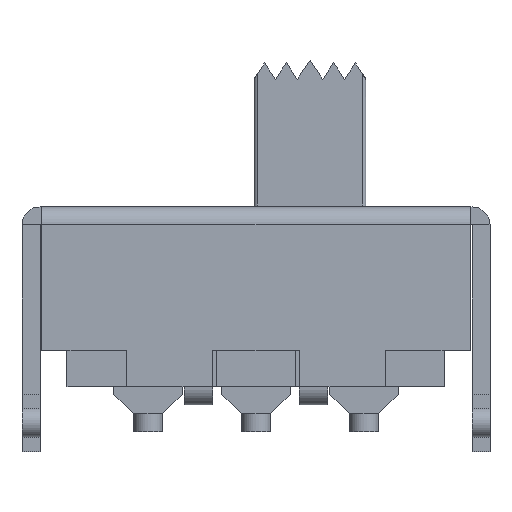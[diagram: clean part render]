
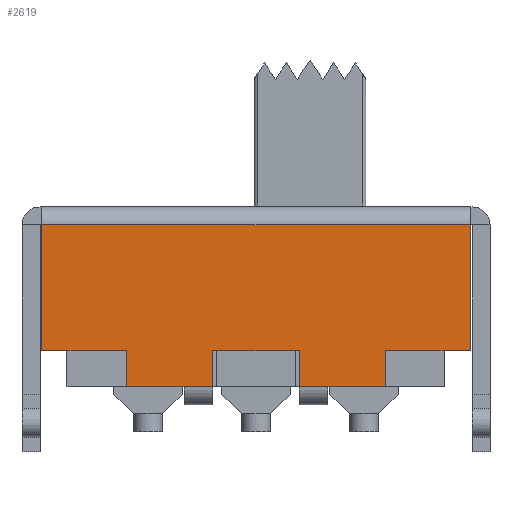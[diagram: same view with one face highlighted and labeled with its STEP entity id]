
A CAD part, front view. The second image highlights one B-rep face of the part: STEP entity #2619.
In plain terms, the highlighted planar face has unit normal (0, -1, 0) as drawn and (0, 1, 0) by its records, which use the part's own axes.
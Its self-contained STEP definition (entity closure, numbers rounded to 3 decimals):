
#416=DIRECTION('',(0.,0.,-1.));
#417=VECTOR('',#416,3.5);
#418=CARTESIAN_POINT('',(5.95,2.85,0.));
#419=LINE('',#418,#417);
#445=DIRECTION('',(-1.,0.,0.));
#446=VECTOR('',#445,11.9);
#447=CARTESIAN_POINT('',(5.95,2.85,0.));
#448=LINE('',#447,#446);
#467=DIRECTION('',(0.,0.,1.));
#468=VECTOR('',#467,3.5);
#469=CARTESIAN_POINT('',(-5.95,2.85,-3.5));
#470=LINE('',#469,#468);
#891=DIRECTION('',(1.,0.,0.));
#892=VECTOR('',#891,0.8);
#893=CARTESIAN_POINT('',(-2.,2.85,-4.5));
#894=LINE('',#893,#892);
#913=DIRECTION('',(0.,0.,-1.));
#914=VECTOR('',#913,1.);
#915=CARTESIAN_POINT('',(-1.2,2.85,-3.5));
#916=LINE('',#915,#914);
#948=DIRECTION('',(1.,0.,0.));
#949=VECTOR('',#948,2.35);
#950=CARTESIAN_POINT('',(-5.95,2.85,-3.5));
#951=LINE('',#950,#949);
#955=DIRECTION('',(0.,0.,-1.));
#956=VECTOR('',#955,1.);
#957=CARTESIAN_POINT('',(-3.6,2.85,-3.5));
#958=LINE('',#957,#956);
#962=DIRECTION('',(1.,0.,0.));
#963=VECTOR('',#962,1.6);
#964=CARTESIAN_POINT('',(-3.6,2.85,-4.5));
#965=LINE('',#964,#963);
#969=DIRECTION('',(1.,0.,0.));
#970=VECTOR('',#969,2.4);
#971=CARTESIAN_POINT('',(-1.2,2.85,-3.5));
#972=LINE('',#971,#970);
#976=DIRECTION('',(1.,0.,0.));
#977=VECTOR('',#976,1.6);
#978=CARTESIAN_POINT('',(2.,2.85,-4.5));
#979=LINE('',#978,#977);
#983=DIRECTION('',(0.,0.,1.));
#984=VECTOR('',#983,1.);
#985=CARTESIAN_POINT('',(3.6,2.85,-4.5));
#986=LINE('',#985,#984);
#990=DIRECTION('',(1.,0.,0.));
#991=VECTOR('',#990,2.35);
#992=CARTESIAN_POINT('',(3.6,2.85,-3.5));
#993=LINE('',#992,#991);
#1018=DIRECTION('',(0.,0.,1.));
#1019=VECTOR('',#1018,1.);
#1020=CARTESIAN_POINT('',(1.2,2.85,-4.5));
#1021=LINE('',#1020,#1019);
#1047=DIRECTION('',(1.,0.,0.));
#1048=VECTOR('',#1047,0.8);
#1049=CARTESIAN_POINT('',(1.2,2.85,-4.5));
#1050=LINE('',#1049,#1048);
#1750=CARTESIAN_POINT('',(-5.95,2.85,-3.5));
#1751=CARTESIAN_POINT('',(-3.6,2.85,-3.5));
#1752=VERTEX_POINT('',#1750);
#1753=VERTEX_POINT('',#1751);
#1754=CARTESIAN_POINT('',(-3.6,2.85,-4.5));
#1755=VERTEX_POINT('',#1754);
#1756=CARTESIAN_POINT('',(-1.2,2.85,-3.5));
#1757=CARTESIAN_POINT('',(1.2,2.85,-3.5));
#1758=VERTEX_POINT('',#1756);
#1759=VERTEX_POINT('',#1757);
#1760=CARTESIAN_POINT('',(3.6,2.85,-4.5));
#1761=CARTESIAN_POINT('',(3.6,2.85,-3.5));
#1762=VERTEX_POINT('',#1760);
#1763=VERTEX_POINT('',#1761);
#1764=CARTESIAN_POINT('',(5.95,2.85,-3.5));
#1765=VERTEX_POINT('',#1764);
#1835=CARTESIAN_POINT('',(-5.95,2.85,0.));
#1837=VERTEX_POINT('',#1835);
#1838=CARTESIAN_POINT('',(5.95,2.85,0.));
#1839=VERTEX_POINT('',#1838);
#1867=CARTESIAN_POINT('',(-1.2,2.85,-4.5));
#1869=VERTEX_POINT('',#1867);
#1870=CARTESIAN_POINT('',(-2.,2.85,-4.5));
#1871=VERTEX_POINT('',#1870);
#1875=CARTESIAN_POINT('',(2.,2.85,-4.5));
#1877=VERTEX_POINT('',#1875);
#1878=CARTESIAN_POINT('',(1.2,2.85,-4.5));
#1879=VERTEX_POINT('',#1878);
#2590=CARTESIAN_POINT('',(5.95,2.85,0.));
#2591=DIRECTION('',(0.,1.,0.));
#2592=DIRECTION('',(-1.,0.,0.));
#2593=AXIS2_PLACEMENT_3D('',#2590,#2591,#2592);
#2594=PLANE('',#2593);
#2595=ORIENTED_EDGE('',*,*,#2240,.T.);
#2596=ORIENTED_EDGE('',*,*,#2261,.F.);
#2598=ORIENTED_EDGE('',*,*,#2597,.T.);
#2600=ORIENTED_EDGE('',*,*,#2599,.T.);
#2601=ORIENTED_EDGE('',*,*,#2582,.T.);
#2602=ORIENTED_EDGE('',*,*,#2523,.T.);
#2603=ORIENTED_EDGE('',*,*,#2544,.F.);
#2605=ORIENTED_EDGE('',*,*,#2604,.T.);
#2607=ORIENTED_EDGE('',*,*,#2606,.F.);
#2609=ORIENTED_EDGE('',*,*,#2608,.T.);
#2611=ORIENTED_EDGE('',*,*,#2610,.T.);
#2613=ORIENTED_EDGE('',*,*,#2612,.T.);
#2615=ORIENTED_EDGE('',*,*,#2614,.T.);
#2616=ORIENTED_EDGE('',*,*,#2221,.F.);
#2617=EDGE_LOOP('',(#2595,#2596,#2598,#2600,#2601,#2602,#2603,#2605,#2607,#2609,
#2611,#2613,#2615,#2616));
#2618=FACE_OUTER_BOUND('',#2617,.F.);
#2221=EDGE_CURVE('',#1839,#1765,#419,.T.);
#2240=EDGE_CURVE('',#1839,#1837,#448,.T.);
#2261=EDGE_CURVE('',#1752,#1837,#470,.T.);
#2523=EDGE_CURVE('',#1871,#1869,#894,.T.);
#2544=EDGE_CURVE('',#1758,#1869,#916,.T.);
#2582=EDGE_CURVE('',#1755,#1871,#965,.T.);
#2597=EDGE_CURVE('',#1752,#1753,#951,.T.);
#2599=EDGE_CURVE('',#1753,#1755,#958,.T.);
#2604=EDGE_CURVE('',#1758,#1759,#972,.T.);
#2606=EDGE_CURVE('',#1879,#1759,#1021,.T.);
#2608=EDGE_CURVE('',#1879,#1877,#1050,.T.);
#2610=EDGE_CURVE('',#1877,#1762,#979,.T.);
#2612=EDGE_CURVE('',#1762,#1763,#986,.T.);
#2614=EDGE_CURVE('',#1763,#1765,#993,.T.);
#2619=ADVANCED_FACE('',(#2618),#2594,.T.);
